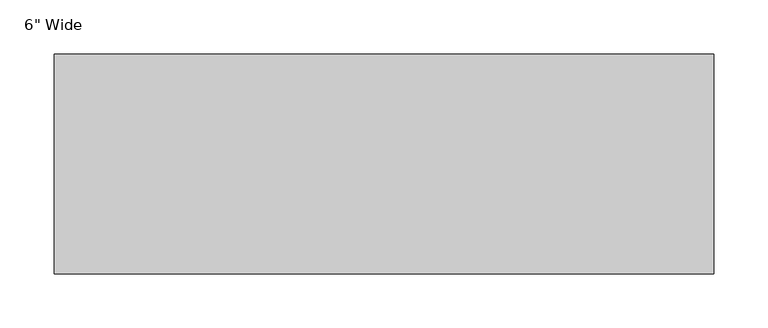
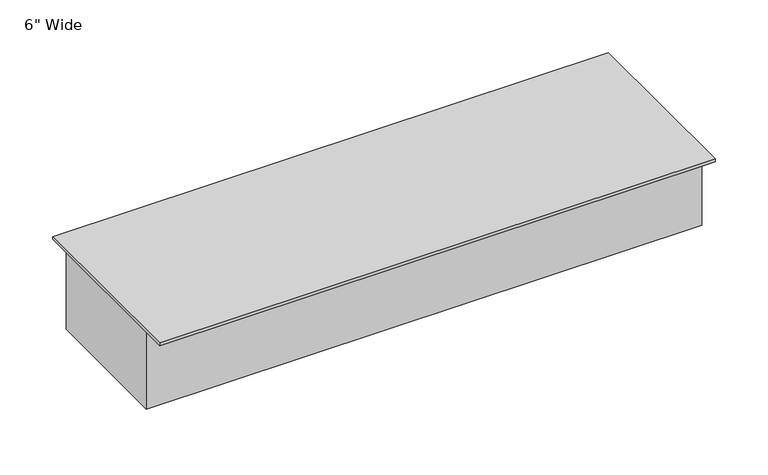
"""IFC4 building model written with IfcOpenShell, lengths in millimetres: proxy geometry."""

import ifcopenshell
import ifcopenshell.guid

model = None  # the IFC model being written
_history = None  # IfcOwnerHistory: only IFC2X3 demands one
_inside = {}  # id of a spatial element -> (the spatial element, [elements in it])
_under = {}  # id of a project, library or spatial element -> (it, [spatial elements below it])
_declared = {}  # id of a project -> (the project, [libraries it declares])
_typed = {}  # id of a type object -> (the type object, [elements of that type])
_made_of = {}  # id of a material, layer set ... -> (it, [elements and type objects made of it])


def new_model(schema):
    """Start an empty IFC model of exactly this schema.

    Asked for "IFC4X3", IfcOpenShell would pick the latest addendum, in which some entities
    have other attributes; the version numbers below select the first issue.
    IFC2X3 requires an IfcOwnerHistory on every rooted entity: one is made here for all.
    """
    global model, _history
    if schema == "IFC4X3":
        model = ifcopenshell.file(schema_version=(4, 3, 0, 0))
    else:
        model = ifcopenshell.file(schema=schema)
    _inside.clear()
    _under.clear()
    _declared.clear()
    _typed.clear()
    _made_of.clear()
    _history = None
    if model.schema == "IFC2X3":
        org = make("IfcOrganization", Name="unknown")
        user = make(
            "IfcPersonAndOrganization",
            ThePerson=make("IfcPerson", FamilyName="unknown"),
            TheOrganization=org,
        )
        app = make(
            "IfcApplication",
            ApplicationDeveloper=org,
            Version="unknown",
            ApplicationFullName="unknown",
            ApplicationIdentifier="unknown",
        )
        _history = make(
            "IfcOwnerHistory",
            OwningUser=user,
            OwningApplication=app,
            ChangeAction="ADDED",
            CreationDate=0,
        )
    return model


def make(cls, **values):
    """One entity of the class cls with the attributes given. An attribute that is None is left unset."""
    return model.create_entity(
        cls, **{name: value for name, value in values.items() if value is not None}
    )


def rooted(cls, **values):
    """An entity with a GlobalId (a new one), such as an element, a storey or a relation."""
    return make(cls, GlobalId=ifcopenshell.guid.new(), OwnerHistory=_history, **values)


def si_unit(unit_type, name, prefix=None):
    """IfcSIUnit, for example si_unit("LENGTHUNIT", "METRE", prefix="MILLI")."""
    return make("IfcSIUnit", UnitType=unit_type, Prefix=prefix, Name=name)


def assignment(units):
    """IfcUnitAssignment: the units of a project."""
    return None if units is None else make("IfcUnitAssignment", Units=units)


def point(xyz):
    """IfcCartesianPoint."""
    return None if xyz is None else make("IfcCartesianPoint", Coordinates=xyz)


def direction(xyz):
    """IfcDirection."""
    return None if xyz is None else make("IfcDirection", DirectionRatios=xyz)


def frame(location, z_axis=None, x_axis=None):
    """IfcAxis2Placement3D, a coordinate frame: its origin and axes. An axis left out is left unset."""
    return make(
        "IfcAxis2Placement3D",
        Location=point(location),
        Axis=direction(z_axis),
        RefDirection=direction(x_axis),
    )


def origin():
    """The frame at (0, 0, 0) with its axes left unset."""
    return frame((0.0, 0.0, 0.0))


def place(relative_to, where):
    """IfcLocalPlacement: puts the frame where relative to a parent placement (None: the world)."""
    return make(
        "IfcLocalPlacement", PlacementRelTo=relative_to, RelativePlacement=where
    )


def context(
    kind, dimensions, precision=None, world=None, true_north=None, identifier=None
):
    """IfcGeometricRepresentationContext, for example the 3D "Model" context."""
    return make(
        "IfcGeometricRepresentationContext",
        ContextIdentifier=identifier,
        ContextType=kind,
        CoordinateSpaceDimension=dimensions,
        Precision=precision,
        WorldCoordinateSystem=world,
        TrueNorth=true_north,
    )


def project(units=None, contexts=None):
    """IfcProject with its units and contexts."""
    return rooted(
        "IfcProject",
        Name="project",
        RepresentationContexts=contexts,
        UnitsInContext=assignment(units),
    )


def spatial(cls, under=None, at=None, **own):
    """A site, building, storey or space (cls), placed at a placement, below another one or the project."""
    s = rooted(cls, ObjectPlacement=at, **own)
    if under is not None:
        _under.setdefault(under.id(), (under, []))[1].append(s)
    return s


def polyline(points):
    """IfcPolyline through the points."""
    return make("IfcPolyline", Points=[point(p) for p in points])


def outline(outer, holes=None, kind="AREA"):
    """IfcArbitraryClosedProfileDef: a profile drawn as a closed curve; with holes, ...WithVoids."""
    if holes is None:
        return make("IfcArbitraryClosedProfileDef", ProfileType=kind, OuterCurve=outer)
    return make(
        "IfcArbitraryProfileDefWithVoids",
        ProfileType=kind,
        OuterCurve=outer,
        InnerCurves=holes,
    )


def extrude(swept, where, along, depth):
    """IfcExtrudedAreaSolid: the profile swept, set in the frame where, extruded along a direction by depth."""
    return make(
        "IfcExtrudedAreaSolid",
        SweptArea=swept,
        Position=where,
        ExtrudedDirection=direction(along),
        Depth=depth,
    )


def shape(context_of_items, identifier, shape_type, items):
    """IfcShapeRepresentation: the items that make up one representation, for example the "Body"."""
    return make(
        "IfcShapeRepresentation",
        ContextOfItems=context_of_items,
        RepresentationIdentifier=identifier,
        RepresentationType=shape_type,
        Items=items,
    )


def source(mapping_origin, context_of_items, identifier, shape_type, items):
    """IfcRepresentationMap: a shape defined once, which mapped items show again and again."""
    return make(
        "IfcRepresentationMap",
        MappingOrigin=mapping_origin,
        MappedRepresentation=shape(context_of_items, identifier, shape_type, items),
    )


def transform(
    local_origin,
    x_axis=None,
    y_axis=None,
    z_axis=None,
    scale=None,
    scale2=None,
    scale3=None,
    uniform=True,
):
    """IfcCartesianTransformationOperator3D, or its non-uniform kind. x_axis, y_axis, z_axis: its Axis1, 2, 3."""
    if uniform:
        return make(
            "IfcCartesianTransformationOperator3D",
            Axis1=direction(x_axis),
            Axis2=direction(y_axis),
            LocalOrigin=point(local_origin),
            Scale=scale,
            Axis3=direction(z_axis),
        )
    return make(
        "IfcCartesianTransformationOperator3DnonUniform",
        Axis1=direction(x_axis),
        Axis2=direction(y_axis),
        LocalOrigin=point(local_origin),
        Scale=scale,
        Axis3=direction(z_axis),
        Scale2=scale2,
        Scale3=scale3,
    )


def mapped(mapping_source, mapping_target):
    """IfcMappedItem: shows the shape of a source again, moved by a transform."""
    return make(
        "IfcMappedItem", MappingSource=mapping_source, MappingTarget=mapping_target
    )


def made_of(thing, what):
    """Note that an element or type object is made of a material, layer set ...; save() writes the relation."""
    if what is not None:
        _made_of.setdefault(what.id(), (what, []))[1].append(thing)
    return thing


def element(
    cls,
    number,
    at=None,
    inside=None,
    cuts=None,
    type_object=None,
    material=None,
    context=None,
    identifier="Body",
    shape_type=None,
    held_by="IfcProductDefinitionShape",
    body=None,
    shapes=None,
    **own,
):
    """One element of the class cls, such as IfcWall. Its Tag is "e" and its number.

    at: its placement. inside: the storey or other place that contains it. cuts: it is an
    opening in that element (IfcRelVoidsElement). A single representation is given by context,
    identifier, shape_type and body (its items); several are given by shapes. held_by: the class
    of the entity that holds the representations. save() writes the other relations.
    """
    e = rooted(cls, Tag="e%d" % number, ObjectPlacement=at, **own)
    if body is not None:
        shapes = [shape(context, identifier, shape_type, body)]
    if shapes is not None:
        e.Representation = make(held_by, Representations=shapes)
    if inside is not None:
        _inside.setdefault(inside.id(), (inside, []))[1].append(e)
    if cuts is not None:
        rooted(
            "IfcRelVoidsElement", RelatingBuildingElement=cuts, RelatedOpeningElement=e
        )
    if type_object is not None:
        _typed.setdefault(type_object.id(), (type_object, []))[1].append(e)
    return made_of(e, material)


def aggregate(whole, parts):
    """IfcRelAggregates: a whole, such as a stair, and the parts it consists of."""
    return rooted("IfcRelAggregates", RelatingObject=whole, RelatedObjects=parts)


def save(model, path):
    """Write the relations noted so far, then the file.

    IfcRelAggregates (storeys below a building ...), IfcRelContainedInSpatialStructure (elements
    in a storey), IfcRelDefinesByType, IfcRelAssociatesMaterial and IfcRelDeclares: one each for
    every whole, place, type object, material and project.
    """
    for whole, parts in _under.values():
        aggregate(whole, parts)
    for where, things in _inside.values():
        rooted(
            "IfcRelContainedInSpatialStructure",
            RelatedElements=things,
            RelatingStructure=where,
        )
    for kind, things in _typed.values():
        rooted("IfcRelDefinesByType", RelatedObjects=things, RelatingType=kind)
    for what, things in _made_of.values():
        rooted("IfcRelAssociatesMaterial", RelatedObjects=things, RelatingMaterial=what)
    for by, libraries in _declared.values():
        rooted("IfcRelDeclares", RelatingContext=by, RelatedDefinitions=libraries)
    model.write(path)


def proxy_4c77f4b0(model_context):
    return source(origin(), model_context, "Body", "SweptSolid", [
        extrude(outline(polyline([(609.6, 101.6), (609.6, -101.6), (0.0, -101.6), (0.0, 101.6), (609.6, 101.6)])), frame((0.0, 0.0, -3.175), z_axis=(0.0, 0.0, 1.0), x_axis=(1.0, 0.0, 0.0)), (0.0, 0.0, 1.0), 3.175),
        extrude(outline(polyline([(609.6, 76.2), (609.6, -76.2), (0.0, -76.2), (0.0, 76.2), (609.6, 76.2)])), frame((0.0, 0.0, -92.075), z_axis=(0.0, 0.0, 1.0), x_axis=(1.0, 0.0, 0.0)), (0.0, 0.0, 1.0), 88.9),
    ])


if __name__ == "__main__":
    model = new_model("IFC4")
    model_context = context("Model", 3, world=origin())
    ifc_project = project(units=[si_unit("LENGTHUNIT", "METRE", prefix="MILLI")], contexts=[model_context])
    site = spatial("IfcSite", under=ifc_project)
    building = spatial("IfcBuilding", under=site)
    placement = place(None, origin())
    proxy_shape = proxy_4c77f4b0(model_context)
    element("IfcBuildingElementProxy", 1, Name="Duct-Wallduct-Wiremold : 6\" Wide", ObjectType="Duct-Wallduct-Wiremold : 6\" Wide", at=placement, inside=building, context=model_context, shape_type="MappedRepresentation", body=[
        mapped(proxy_shape, transform((0.0, 0.0, 0.0), x_axis=(1.0, 0.0, 0.0), y_axis=(0.0, 1.0, 0.0), z_axis=(0.0, 0.0, 1.0))),
    ])
    save(model, "model.ifc")
